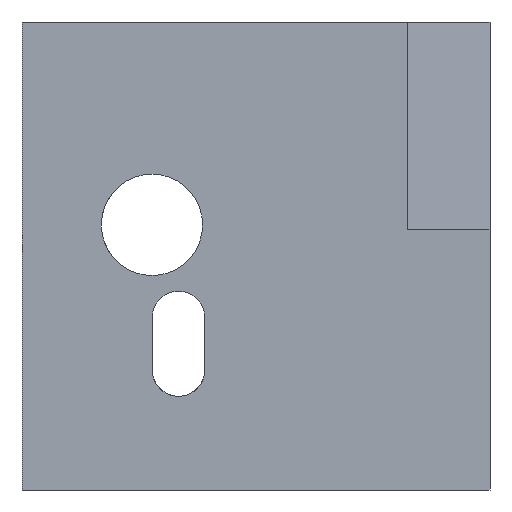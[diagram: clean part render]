
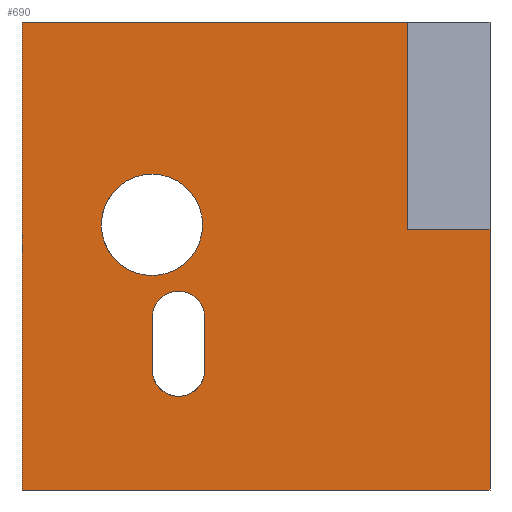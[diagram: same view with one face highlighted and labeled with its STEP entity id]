
A CAD part, front view. The second image highlights one B-rep face of the part: STEP entity #690.
In plain terms, the highlighted planar face has unit normal (0, -1, 0).
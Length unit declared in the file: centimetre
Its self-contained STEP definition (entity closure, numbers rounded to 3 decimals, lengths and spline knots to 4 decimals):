
#58 = AXIS2_PLACEMENT_3D ( 'NONE', #639, #1350, #482 ) ;
#74 = CARTESIAN_POINT ( 'NONE',  ( 334.4886, 0., 368.3077 ) ) ;
#86 = VERTEX_POINT ( 'NONE', #463 ) ;
#109 = ORIENTED_EDGE ( 'NONE', *, *, #1132, .T. ) ;
#136 = FACE_BOUND ( 'NONE', #377, .T. ) ;
#139 = VECTOR ( 'NONE', #604, 100. ) ;
#143 = EDGE_CURVE ( 'NONE', #1457, #1680, #1672, .T. ) ;
#148 = VECTOR ( 'NONE', #1419, 100. ) ;
#156 = CARTESIAN_POINT ( 'NONE',  ( 0., 0., 1000. ) ) ;
#157 = PLANE ( 'NONE',  #864 ) ;
#166 = EDGE_CURVE ( 'NONE', #323, #86, #620, .T. ) ;
#181 = EDGE_CURVE ( 'NONE', #572, #656, #1408, .T. ) ;
#185 = CARTESIAN_POINT ( 'NONE',  ( 0., 0., 0. ) ) ;
#192 = EDGE_CURVE ( 'NONE', #614, #1438, #1182, .T. ) ;
#220 = EDGE_CURVE ( 'NONE', #656, #572, #1747, .T. ) ;
#231 = CIRCLE ( 'NONE', #58, 56.2648 ) ;
#250 = EDGE_CURVE ( 'NONE', #1431, #1680, #917, .T. ) ;
#316 = EDGE_CURVE ( 'NONE', #888, #323, #231, .T. ) ;
#323 = VERTEX_POINT ( 'NONE', #915 ) ;
#364 = ORIENTED_EDGE ( 'NONE', *, *, #661, .F. ) ;
#377 = EDGE_LOOP ( 'NONE', ( #364, #1002, #1410, #1367, #1474 ) ) ;
#379 = ORIENTED_EDGE ( 'NONE', *, *, #1396, .F. ) ;
#381 = CARTESIAN_POINT ( 'NONE',  ( 0., 0., 0. ) ) ;
#418 = LINE ( 'NONE', #1722, #148 ) ;
#425 = DIRECTION ( 'NONE',  ( 0., 0., -1. ) ) ;
#426 = DIRECTION ( 'NONE',  ( 1., 0., 0. ) ) ;
#457 = CARTESIAN_POINT ( 'NONE',  ( 823.5474, 0., 557.1254 ) ) ;
#463 = CARTESIAN_POINT ( 'NONE',  ( 390.7535, 0., 256.4142 ) ) ;
#468 = VECTOR ( 'NONE', #1466, 100. ) ;
#482 = DIRECTION ( 'NONE',  ( 0., 0., 1. ) ) ;
#543 = ORIENTED_EDGE ( 'NONE', *, *, #938, .T. ) ;
#572 = VERTEX_POINT ( 'NONE', #1390 ) ;
#573 = CARTESIAN_POINT ( 'NONE',  ( 0., 0., 1000. ) ) ;
#604 = DIRECTION ( 'NONE',  ( 1., 0., 0. ) ) ;
#614 = VERTEX_POINT ( 'NONE', #867 ) ;
#619 = CARTESIAN_POINT ( 'NONE',  ( 1000., 0., 1000. ) ) ;
#620 = CIRCLE ( 'NONE', #1015, 56.2648 ) ;
#627 = CARTESIAN_POINT ( 'NONE',  ( 823.5474, 0., 557.1254 ) ) ;
#639 = CARTESIAN_POINT ( 'NONE',  ( 334.4886, 0., 256.4142 ) ) ;
#648 = ORIENTED_EDGE ( 'NONE', *, *, #192, .F. ) ;
#656 = VERTEX_POINT ( 'NONE', #706 ) ;
#657 = DIRECTION ( 'NONE',  ( 1., 0., 0. ) ) ;
#661 = EDGE_CURVE ( 'NONE', #86, #1724, #418, .T. ) ;
#667 = LINE ( 'NONE', #845, #1389 ) ;
#690 = ADVANCED_FACE ( 'NONE', ( #136, #1406, #722 ), #157, .F. ) ;
#706 = CARTESIAN_POINT ( 'NONE',  ( 277.7259, 0., 674.7972 ) ) ;
#722 = FACE_OUTER_BOUND ( 'NONE', #823, .T. ) ;
#780 = DIRECTION ( 'NONE',  ( 0., 0., 1. ) ) ;
#789 = CARTESIAN_POINT ( 'NONE',  ( 278.2238, 0., 256.4142 ) ) ;
#822 = ORIENTED_EDGE ( 'NONE', *, *, #250, .F. ) ;
#823 = EDGE_LOOP ( 'NONE', ( #379, #109, #648, #543, #1605, #822 ) ) ;
#845 = CARTESIAN_POINT ( 'NONE',  ( 0., 0., 1000. ) ) ;
#854 = AXIS2_PLACEMENT_3D ( 'NONE', #74, #913, #780 ) ;
#864 = AXIS2_PLACEMENT_3D ( 'NONE', #573, #1288, #1163 ) ;
#865 = AXIS2_PLACEMENT_3D ( 'NONE', #1202, #1615, #1570 ) ;
#867 = CARTESIAN_POINT ( 'NONE',  ( 0., 0., 1000. ) ) ;
#871 = VERTEX_POINT ( 'NONE', #1654 ) ;
#888 = VERTEX_POINT ( 'NONE', #1490 ) ;
#896 = VECTOR ( 'NONE', #657, 100. ) ;
#913 = DIRECTION ( 'NONE',  ( 0., -1., 0. ) ) ;
#915 = CARTESIAN_POINT ( 'NONE',  ( 334.4886, 0., 200.1494 ) ) ;
#917 = LINE ( 'NONE', #619, #1613 ) ;
#938 = EDGE_CURVE ( 'NONE', #614, #1457, #667, .T. ) ;
#943 = LINE ( 'NONE', #1066, #1763 ) ;
#1002 = ORIENTED_EDGE ( 'NONE', *, *, #166, .F. ) ;
#1015 = AXIS2_PLACEMENT_3D ( 'NONE', #1791, #1138, #1283 ) ;
#1066 = CARTESIAN_POINT ( 'NONE',  ( 823.5474, 0., 557.1254 ) ) ;
#1092 = DIRECTION ( 'NONE',  ( 0., 0., 1. ) ) ;
#1100 = CIRCLE ( 'NONE', #854, 56.2648 ) ;
#1131 = CARTESIAN_POINT ( 'NONE',  ( 390.7535, 0., 368.3077 ) ) ;
#1132 = EDGE_CURVE ( 'NONE', #1681, #1438, #943, .T. ) ;
#1138 = DIRECTION ( 'NONE',  ( 0., -1., 0. ) ) ;
#1158 = CARTESIAN_POINT ( 'NONE',  ( 1000., 0., 557.1254 ) ) ;
#1163 = DIRECTION ( 'NONE',  ( 0., 0., 1. ) ) ;
#1177 = CARTESIAN_POINT ( 'NONE',  ( 823.5474, 0., 1000. ) ) ;
#1182 = LINE ( 'NONE', #156, #1508 ) ;
#1202 = CARTESIAN_POINT ( 'NONE',  ( 277.7259, 0., 566.5734 ) ) ;
#1207 = DIRECTION ( 'NONE',  ( 0., 0., -1. ) ) ;
#1216 = CARTESIAN_POINT ( 'NONE',  ( 1000., 0., 0. ) ) ;
#1259 = CARTESIAN_POINT ( 'NONE',  ( 277.7259, 0., 566.5734 ) ) ;
#1273 = ORIENTED_EDGE ( 'NONE', *, *, #220, .F. ) ;
#1283 = DIRECTION ( 'NONE',  ( 0., 0., 1. ) ) ;
#1288 = DIRECTION ( 'NONE',  ( 0., 1., 0. ) ) ;
#1296 = DIRECTION ( 'NONE',  ( 0., 0., -1. ) ) ;
#1350 = DIRECTION ( 'NONE',  ( 0., -1., 0. ) ) ;
#1367 = ORIENTED_EDGE ( 'NONE', *, *, #1560, .F. ) ;
#1389 = VECTOR ( 'NONE', #425, 100. ) ;
#1390 = CARTESIAN_POINT ( 'NONE',  ( 277.7259, 0., 458.3496 ) ) ;
#1396 = EDGE_CURVE ( 'NONE', #1681, #1431, #1598, .T. ) ;
#1406 = FACE_BOUND ( 'NONE', #1631, .T. ) ;
#1408 = CIRCLE ( 'NONE', #865, 108.2238 ) ;
#1410 = ORIENTED_EDGE ( 'NONE', *, *, #316, .F. ) ;
#1419 = DIRECTION ( 'NONE',  ( 0., 0., 1. ) ) ;
#1431 = VERTEX_POINT ( 'NONE', #1158 ) ;
#1438 = VERTEX_POINT ( 'NONE', #1177 ) ;
#1457 = VERTEX_POINT ( 'NONE', #185 ) ;
#1466 = DIRECTION ( 'NONE',  ( 0., 0., -1. ) ) ;
#1474 = ORIENTED_EDGE ( 'NONE', *, *, #1580, .F. ) ;
#1490 = CARTESIAN_POINT ( 'NONE',  ( 278.2238, 0., 256.4142 ) ) ;
#1508 = VECTOR ( 'NONE', #426, 100. ) ;
#1551 = DIRECTION ( 'NONE',  ( 0., -1., 0. ) ) ;
#1560 = EDGE_CURVE ( 'NONE', #871, #888, #1765, .T. ) ;
#1570 = DIRECTION ( 'NONE',  ( 0., 0., -1. ) ) ;
#1580 = EDGE_CURVE ( 'NONE', #1724, #871, #1100, .T. ) ;
#1598 = LINE ( 'NONE', #457, #139 ) ;
#1605 = ORIENTED_EDGE ( 'NONE', *, *, #143, .T. ) ;
#1613 = VECTOR ( 'NONE', #1207, 100. ) ;
#1615 = DIRECTION ( 'NONE',  ( 0., -1., 0. ) ) ;
#1631 = EDGE_LOOP ( 'NONE', ( #1687, #1273 ) ) ;
#1654 = CARTESIAN_POINT ( 'NONE',  ( 278.2238, 0., 368.3077 ) ) ;
#1672 = LINE ( 'NONE', #381, #896 ) ;
#1680 = VERTEX_POINT ( 'NONE', #1216 ) ;
#1681 = VERTEX_POINT ( 'NONE', #627 ) ;
#1687 = ORIENTED_EDGE ( 'NONE', *, *, #181, .F. ) ;
#1722 = CARTESIAN_POINT ( 'NONE',  ( 390.7535, 0., 368.3077 ) ) ;
#1724 = VERTEX_POINT ( 'NONE', #1131 ) ;
#1747 = CIRCLE ( 'NONE', #1772, 108.2238 ) ;
#1763 = VECTOR ( 'NONE', #1092, 100. ) ;
#1765 = LINE ( 'NONE', #789, #468 ) ;
#1772 = AXIS2_PLACEMENT_3D ( 'NONE', #1259, #1551, #1296 ) ;
#1791 = CARTESIAN_POINT ( 'NONE',  ( 334.4886, 0., 256.4142 ) ) ;
